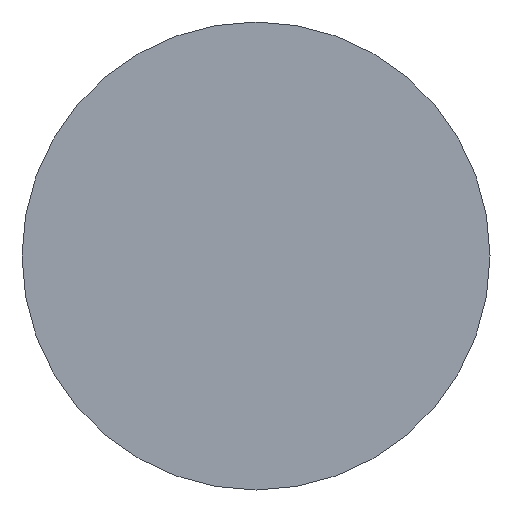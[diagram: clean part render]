
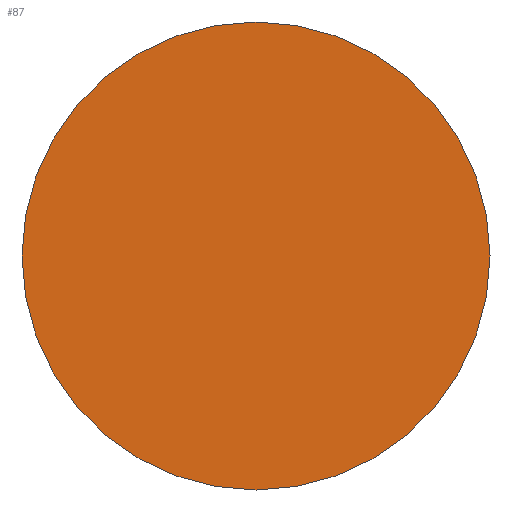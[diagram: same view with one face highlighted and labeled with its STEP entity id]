
A CAD part, front view. The second image highlights one B-rep face of the part: STEP entity #87.
In plain terms, the highlighted planar face has unit normal (0, -1, 0).
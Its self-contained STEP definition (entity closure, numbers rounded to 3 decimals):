
#7 = VERTEX_POINT ( 'NONE', #13 ) ;
#13 = CARTESIAN_POINT ( 'NONE',  ( 0., -7.5, -2.5 ) ) ;
#16 = PLANE ( 'NONE',  #170 ) ;
#28 = CIRCLE ( 'NONE', #68, 2.5 ) ;
#33 = DIRECTION ( 'NONE',  ( 0., 0., 1. ) ) ;
#37 = EDGE_CURVE ( 'NONE', #7, #153, #28, .T. ) ;
#44 = CARTESIAN_POINT ( 'NONE',  ( 0., -7.5, 0. ) ) ;
#55 = ORIENTED_EDGE ( 'NONE', *, *, #37, .F. ) ;
#61 = DIRECTION ( 'NONE',  ( 0., 1., 0. ) ) ;
#62 = CIRCLE ( 'NONE', #120, 2.5 ) ;
#68 = AXIS2_PLACEMENT_3D ( 'NONE', #44, #96, #141 ) ;
#83 = DIRECTION ( 'NONE',  ( 0., 1., 0. ) ) ;
#87 = ADVANCED_FACE ( 'NONE', ( #107 ), #16, .F. ) ;
#91 = EDGE_LOOP ( 'NONE', ( #55, #149 ) ) ;
#96 = DIRECTION ( 'NONE',  ( 0., 1., 0. ) ) ;
#106 = CARTESIAN_POINT ( 'NONE',  ( 0., -7.5, 2.5 ) ) ;
#107 = FACE_OUTER_BOUND ( 'NONE', #91, .T. ) ;
#120 = AXIS2_PLACEMENT_3D ( 'NONE', #143, #61, #131 ) ;
#131 = DIRECTION ( 'NONE',  ( 0., 0., 1. ) ) ;
#132 = EDGE_CURVE ( 'NONE', #153, #7, #62, .T. ) ;
#133 = CARTESIAN_POINT ( 'NONE',  ( 0., -7.5, 0. ) ) ;
#141 = DIRECTION ( 'NONE',  ( 0., 0., 1. ) ) ;
#143 = CARTESIAN_POINT ( 'NONE',  ( 0., -7.5, 0. ) ) ;
#149 = ORIENTED_EDGE ( 'NONE', *, *, #132, .F. ) ;
#153 = VERTEX_POINT ( 'NONE', #106 ) ;
#170 = AXIS2_PLACEMENT_3D ( 'NONE', #133, #83, #33 ) ;
